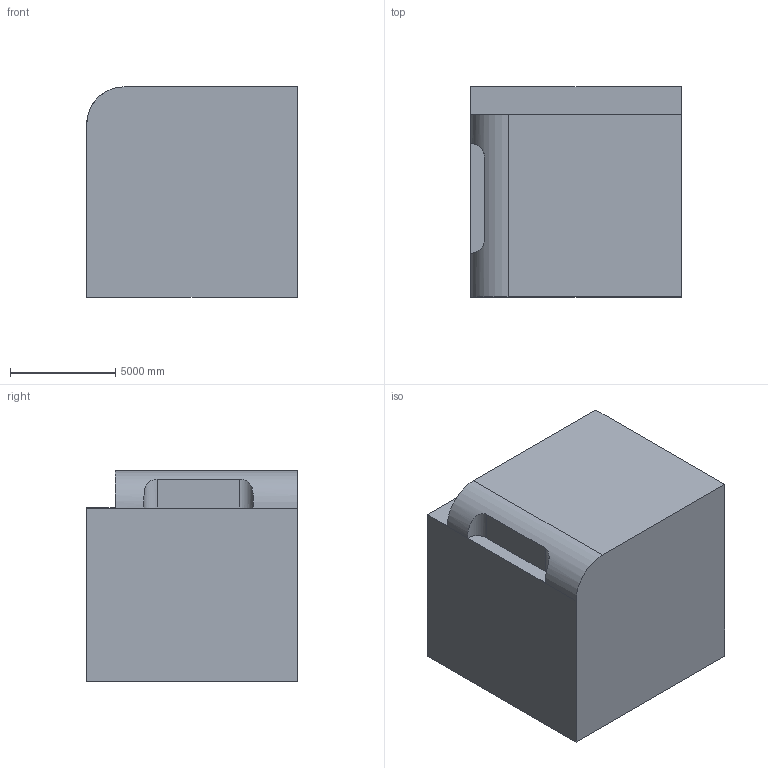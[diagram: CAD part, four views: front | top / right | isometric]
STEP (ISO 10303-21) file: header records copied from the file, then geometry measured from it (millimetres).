
FILE_DESCRIPTION (( 'STEP AP203' ), '1' );
FILE_NAME ('296.STEP', '2022-07-28T14:14:44', ( 'user' ), ( '' ), 'SwSTEP 2.0', 'SolidWorks 2021', '' );
FILE_SCHEMA (( 'CONFIG_CONTROL_DESIGN' ));
Length unit declared in the file: centimetre
Products named in the file (1): 296
Bounding box: 10000 x 10000 x 10000 mm (x, y, z)
Volume: 967494123792.8 mm3; surface area: 590201130.4 mm2
Topology: 1 solids, 1 shells, 13 faces, 30 edges, 20 vertices
Faces by surface type: plane 10, cylinder 3
Entity records: 608 total; most frequent: CARTESIAN_POINT 230, DIRECTION 61, ORIENTED_EDGE 60, EDGE_CURVE 30, VECTOR 23, LINE 23, VERTEX_POINT 20, AXIS2_PLACEMENT_3D 19
